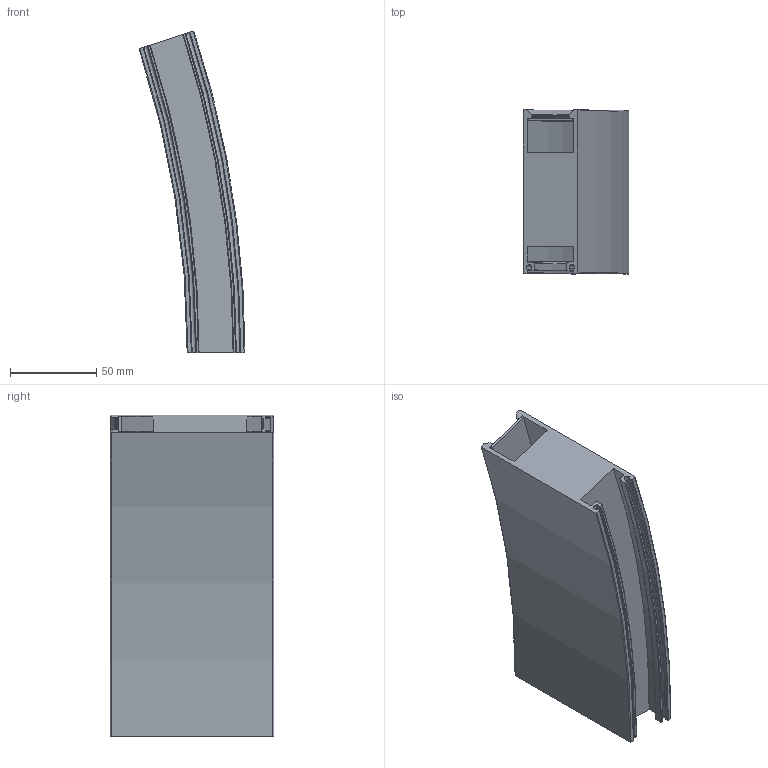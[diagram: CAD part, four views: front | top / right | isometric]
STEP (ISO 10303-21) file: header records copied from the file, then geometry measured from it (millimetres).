
FILE_DESCRIPTION(/* description */ (''),/* implementation_level */ '2;1');
FILE_NAME(/* name */ 'Evelo S R600 Blank Assembly.stp',/* time_stamp */ '2024-09-20T17:05:31+10:00',/* author */ ('Mlight Projects'),/* organization */ (''),/* preprocessor_version */ 'ST-DEVELOPER v20',/* originating_system */ 'Autodesk Inventor 2024',/* authorisation */ '');
FILE_SCHEMA (('AUTOMOTIVE_DESIGN { 1 0 10303 214 3 1 1 }'));
Length unit declared in the file: millimetre
Products named in the file (3): Evelo S R600 Optics Assembly; Body R200; Blanks R300
Assembly tree (2 placements, depth 2):
  Evelo S R600 Optics Assembly
    Body R200
    Blanks R300
Bounding box: 61.61 x 95.1 x 187.2 mm (x, y, z)
Volume: 391704.2 mm3; surface area: 83987.5 mm2
Topology: 2 solids, 2 shells, 66 faces, 186 edges, 124 vertices
Faces by surface type: torus 28, plane 18, cylinder 12, cone 8
Entity records: 2315 total; most frequent: DIRECTION 446, CARTESIAN_POINT 381, ORIENTED_EDGE 372, AXIS2_PLACEMENT_3D 189, EDGE_CURVE 186, VERTEX_POINT 124, CIRCLE 118, LINE 68
